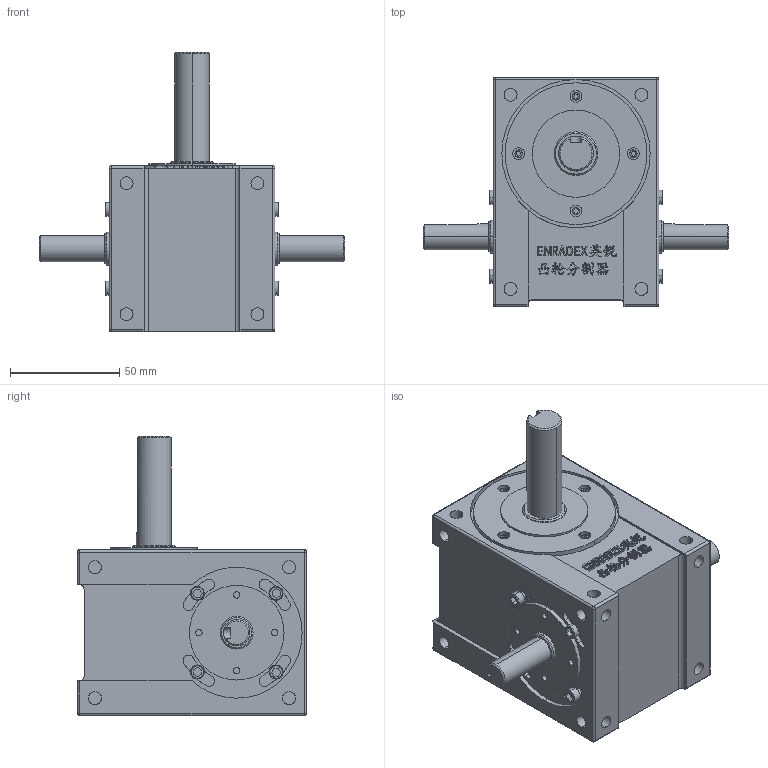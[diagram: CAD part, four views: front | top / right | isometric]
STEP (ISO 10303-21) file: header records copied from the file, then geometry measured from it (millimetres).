
FILE_DESCRIPTION (( 'STEP AP214' ), '1' );
FILE_NAME ('ER-RU38DS英锐凸轮分割器3D标准图纸(电话15062628977)A.STEP', '2022-10-29T04:32:58', ( '微软用户' ), ( '微软中国' ), 'SwSTEP 2.0', 'SolidWorks 2017', '' );
FILE_SCHEMA (( 'AUTOMOTIVE_DESIGN' ));
Length unit declared in the file: millimetre
Products named in the file (1): ER-RU38DS英锐凸轮分割器3D标准图纸(电话15062628977)A
Bounding box: 140 x 105 x 128 mm (x, y, z)
Volume: 582035 mm3; surface area: 58157.1 mm2
Topology: 3 solids, 3 shells, 769 faces, 1979 edges, 1273 vertices
Faces by surface type: plane 322, cylinder 251, bspline 181, cone 15
Entity records: 43047 total; most frequent: CARTESIAN_POINT 20727, ORIENTED_EDGE 3942, DIRECTION 3172, EDGE_CURVE 1971, VERTEX_POINT 1273, AXIS2_PLACEMENT_3D 1104, VECTOR 964, LINE 964
